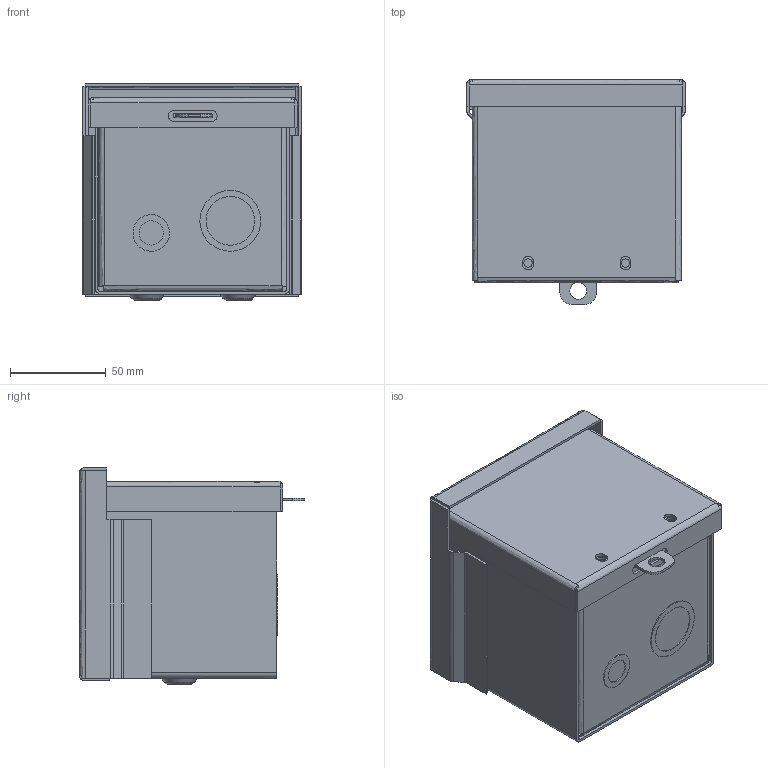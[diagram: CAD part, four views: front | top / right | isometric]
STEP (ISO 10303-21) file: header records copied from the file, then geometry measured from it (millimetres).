
FILE_DESCRIPTION((''),'2;1');
FILE_NAME('D:\scratch\ideas\a4r44.stp','2006-12-18T12:57:47',('User'), ('SDRC'),'I-DEAS Master Series 9','UNIX','Yes');
FILE_SCHEMA(('AUTOMOTIVE_DESIGN { 1 0 10303 214 0 1 1 1 }'));
Length unit declared in the file: inch
Products named in the file (7): 13478; 3rsc_wmt_body_4x4x4; 3rsc_top_4x4; 3rsc_bottom_4x4; 3rsc_body_4x4x4; 3rsc_cover_4x4; 78124001
Assembly tree (6 placements, depth 3):
  13478
    3rsc_wmt_body_4x4x4
      3rsc_top_4x4
      3rsc_bottom_4x4
      3rsc_body_4x4x4
    3rsc_cover_4x4
    78124001
Bounding box: 114.3 x 117.55 x 113.03 mm (x, y, z)
Volume: 119167.5 mm3; surface area: 174500.8 mm2
Topology: 5 solids, 5 shells, 229 faces, 593 edges, 380 vertices
Faces by surface type: bspline 229
Entity records: 7136 total; most frequent: CARTESIAN_POINT 3283, ORIENTED_EDGE 1186, EDGE_CURVE 593, VERTEX_POINT 380, QUASI_UNIFORM_CURVE 306, EDGE_LOOP 259, FACE_OUTER_BOUND 229, ADVANCED_FACE 229
